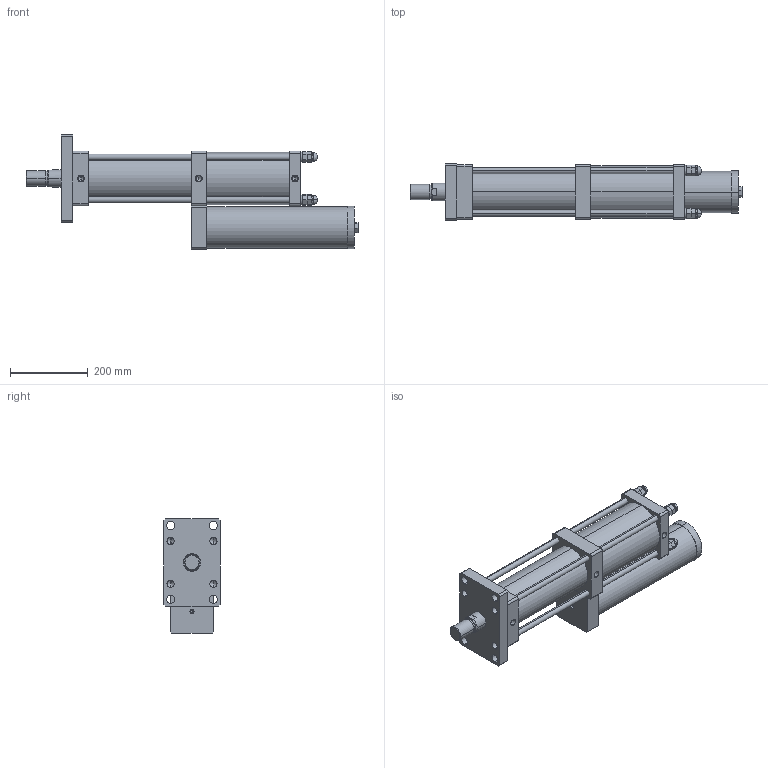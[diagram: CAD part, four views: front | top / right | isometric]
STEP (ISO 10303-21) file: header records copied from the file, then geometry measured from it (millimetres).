
FILE_DESCRIPTION (( 'STEP AP203' ), '1' );
FILE_NAME ('MPT-100-200-10-13T.STEP', '2016-03-28T10:21:37', ( 'WIN' ), ( '' ), 'SwSTEP 2.0', 'SolidWorks 2014', '' );
FILE_SCHEMA (( 'CONFIG_CONTROL_DESIGN' ));
Length unit declared in the file: millimetre
Products named in the file (1): MPT-100-200-10-13T
Bounding box: 853 x 145 x 294.5 mm (x, y, z)
Volume: 13152134.3 mm3; surface area: 803290.2 mm2
Topology: 13 solids, 13 shells, 400 faces, 980 edges, 555 vertices
Faces by surface type: plane 188, cylinder 80, torus 48, bspline 48, cone 36
Entity records: 12751 total; most frequent: CARTESIAN_POINT 3688, DIRECTION 1936, ORIENTED_EDGE 1812, EDGE_CURVE 906, AXIS2_PLACEMENT_3D 727, VERTEX_POINT 555, LINE 482, VECTOR 482
